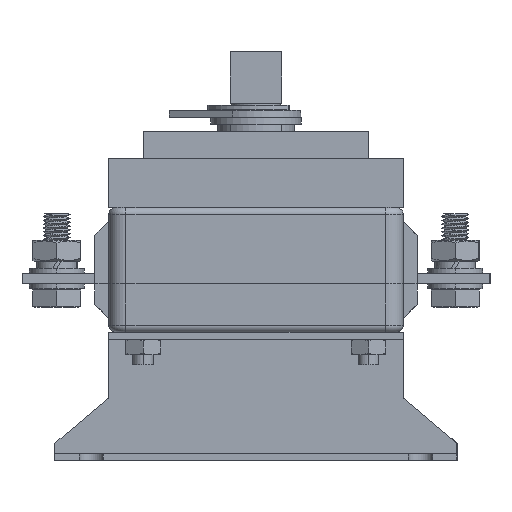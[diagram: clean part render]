
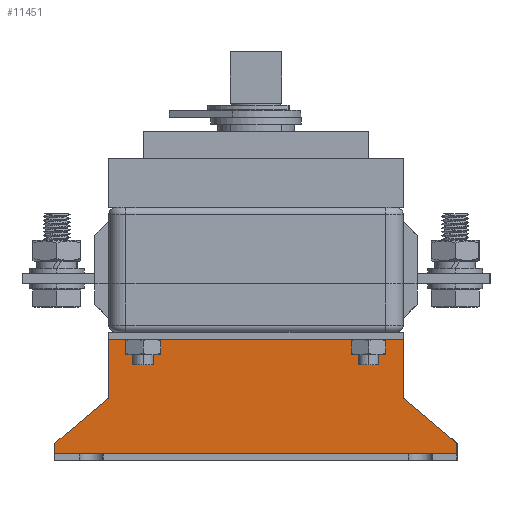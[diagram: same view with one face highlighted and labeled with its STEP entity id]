
A CAD part, left-side view. The second image highlights one B-rep face of the part: STEP entity #11451.
In plain terms, the highlighted planar face has unit normal (-1, 0, 0) as drawn and (0, 0, 1) by its records, which use the part's own axes.
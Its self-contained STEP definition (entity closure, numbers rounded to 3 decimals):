
#10894=DIRECTION('',(0.,1.,0.));
#10895=VECTOR('',#10894,17.);
#10896=CARTESIAN_POINT('',(42.5,18.,-7.));
#10897=LINE('',#10896,#10895);
#10958=DIRECTION('',(1.,0.,0.));
#10959=VECTOR('',#10958,85.);
#10960=CARTESIAN_POINT('',(-42.5,35.,-7.));
#10961=LINE('',#10960,#10959);
#10966=DIRECTION('',(-0.766,0.643,0.));
#10967=VECTOR('',#10966,20.23);
#10968=CARTESIAN_POINT('',(58.,5.,-7.));
#10969=LINE('',#10968,#10967);
#10983=DIRECTION('',(0.,-1.,0.));
#10984=VECTOR('',#10983,3.);
#10985=CARTESIAN_POINT('',(58.,5.,-7.));
#10986=LINE('',#10985,#10984);
#11025=DIRECTION('',(0.,-1.,0.));
#11026=VECTOR('',#11025,3.);
#11027=CARTESIAN_POINT('',(-58.,5.,-7.));
#11028=LINE('',#11027,#11026);
#11083=DIRECTION('',(0.,1.,0.));
#11084=VECTOR('',#11083,17.);
#11085=CARTESIAN_POINT('',(-42.5,18.,-7.));
#11086=LINE('',#11085,#11084);
#11091=DIRECTION('',(-0.766,-0.643,0.));
#11092=VECTOR('',#11091,20.23);
#11093=CARTESIAN_POINT('',(-42.5,18.,-7.));
#11094=LINE('',#11093,#11092);
#11117=DIRECTION('',(1.,0.,0.));
#11118=VECTOR('',#11117,116.);
#11119=CARTESIAN_POINT('',(-58.,2.,-7.));
#11120=LINE('',#11119,#11118);
#11237=CARTESIAN_POINT('',(58.,2.,-7.));
#11238=VERTEX_POINT('',#11237);
#11239=CARTESIAN_POINT('',(-58.,2.,-7.));
#11240=VERTEX_POINT('',#11239);
#11241=CARTESIAN_POINT('',(58.,5.,-7.));
#11242=VERTEX_POINT('',#11241);
#11243=CARTESIAN_POINT('',(42.5,18.,-7.));
#11244=VERTEX_POINT('',#11243);
#11245=CARTESIAN_POINT('',(-42.5,18.,-7.));
#11246=VERTEX_POINT('',#11245);
#11247=CARTESIAN_POINT('',(-58.,5.,-7.));
#11248=VERTEX_POINT('',#11247);
#11249=CARTESIAN_POINT('',(42.5,35.,-7.));
#11250=VERTEX_POINT('',#11249);
#11251=CARTESIAN_POINT('',(-42.5,35.,-7.));
#11252=VERTEX_POINT('',#11251);
#11430=CARTESIAN_POINT('',(-58.,35.,-7.));
#11431=DIRECTION('',(0.,0.,-1.));
#11432=DIRECTION('',(0.,-1.,0.));
#11433=AXIS2_PLACEMENT_3D('',#11430,#11431,#11432);
#11434=PLANE('',#11433);
#11435=ORIENTED_EDGE('',*,*,#11328,.F.);
#11437=ORIENTED_EDGE('',*,*,#11436,.F.);
#11439=ORIENTED_EDGE('',*,*,#11438,.T.);
#11441=ORIENTED_EDGE('',*,*,#11440,.F.);
#11443=ORIENTED_EDGE('',*,*,#11442,.F.);
#11445=ORIENTED_EDGE('',*,*,#11444,.F.);
#11447=ORIENTED_EDGE('',*,*,#11446,.T.);
#11448=ORIENTED_EDGE('',*,*,#11413,.T.);
#11449=EDGE_LOOP('',(#11435,#11437,#11439,#11441,#11443,#11445,#11447,#11448));
#11450=FACE_OUTER_BOUND('',#11449,.F.);
#11451=ADVANCED_FACE('',(#11450),#11434,.F.);
#11328=EDGE_CURVE('',#11244,#11250,#10897,.T.);
#11413=EDGE_CURVE('',#11252,#11250,#10961,.T.);
#11436=EDGE_CURVE('',#11242,#11244,#10969,.T.);
#11438=EDGE_CURVE('',#11242,#11238,#10986,.T.);
#11440=EDGE_CURVE('',#11240,#11238,#11120,.T.);
#11442=EDGE_CURVE('',#11248,#11240,#11028,.T.);
#11444=EDGE_CURVE('',#11246,#11248,#11094,.T.);
#11446=EDGE_CURVE('',#11246,#11252,#11086,.T.);
